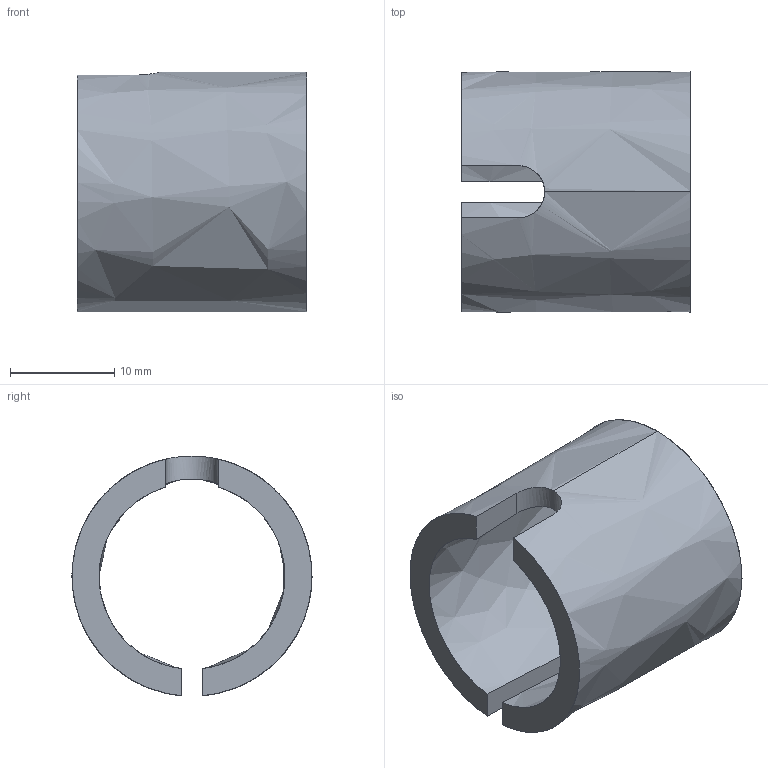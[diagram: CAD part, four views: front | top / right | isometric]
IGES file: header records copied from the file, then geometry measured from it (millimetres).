
Start section: Comment
Global section: file name: JF6H35_Sleeve.igs; native system:  By Spatial Corp.; preprocessor: XPlus GENERIC/IGES 3.0; author: Author; organization: Title; date: 20080526.100438; units: millimetre
Bounding box: 22 x 23 x 22.96 mm (x, y, z)
Surface area: 3117 mm2 (no closed solid volume)
Topology: 0 solids, 0 shells, 11 faces, 68 edges, 68 vertices
Faces by surface type: bspline 11
